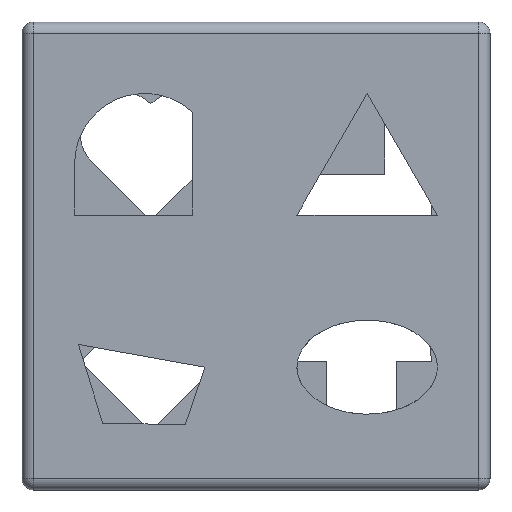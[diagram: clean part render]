
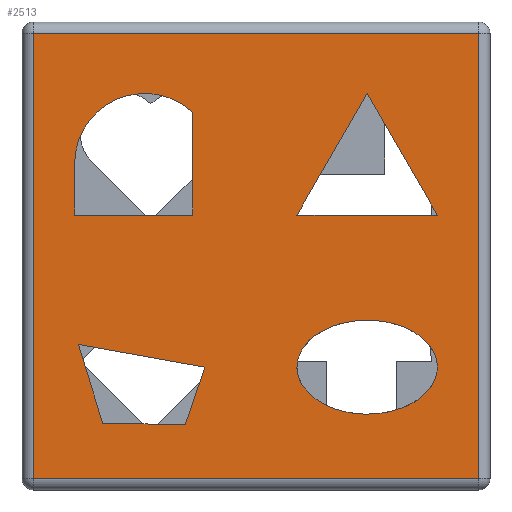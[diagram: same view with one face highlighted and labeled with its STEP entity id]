
A CAD part, front view. The second image highlights one B-rep face of the part: STEP entity #2513.
In plain terms, the highlighted planar face has unit normal (0, -1, 0).
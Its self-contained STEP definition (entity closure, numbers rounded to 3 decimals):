
#17=FACE_BOUND('',#448,.T.);
#18=FACE_BOUND('',#449,.T.);
#19=FACE_BOUND('',#450,.T.);
#20=FACE_BOUND('',#451,.T.);
#75=CIRCLE('',#2635,30.);
#189=PLANE('',#2713);
#317=FACE_OUTER_BOUND('',#447,.T.);
#447=EDGE_LOOP('',(#2068,#2069,#2070,#2071));
#448=EDGE_LOOP('',(#2072));
#449=EDGE_LOOP('',(#2073,#2074,#2075));
#450=EDGE_LOOP('',(#2076,#2077,#2078,#2079));
#451=EDGE_LOOP('',(#2080,#2081,#2082,#2083));
#594=LINE('',#3635,#896);
#598=LINE('',#3643,#900);
#601=LINE('',#3648,#903);
#603=LINE('',#3653,#905);
#607=LINE('',#3661,#909);
#610=LINE('',#3667,#912);
#613=LINE('',#3672,#915);
#615=LINE('',#3677,#917);
#619=LINE('',#3685,#921);
#622=LINE('',#3691,#924);
#695=LINE('',#3878,#997);
#711=LINE('',#3926,#1013);
#714=LINE('',#3930,#1016);
#720=LINE('',#3942,#1022);
#896=VECTOR('',#2922,10.);
#900=VECTOR('',#2928,10.);
#903=VECTOR('',#2933,10.);
#905=VECTOR('',#2937,10.);
#909=VECTOR('',#2943,10.);
#912=VECTOR('',#2948,10.);
#915=VECTOR('',#2953,10.);
#917=VECTOR('',#2957,10.);
#921=VECTOR('',#2963,10.);
#924=VECTOR('',#2968,10.);
#997=VECTOR('',#3141,10.);
#1013=VECTOR('',#3199,10.);
#1016=VECTOR('',#3204,10.);
#1022=VECTOR('',#3218,10.);
#1131=ELLIPSE('',#2622,30.,20.091);
#1189=VERTEX_POINT('',#3627);
#1191=VERTEX_POINT('',#3633);
#1192=VERTEX_POINT('',#3634);
#1195=VERTEX_POINT('',#3642);
#1197=VERTEX_POINT('',#3651);
#1198=VERTEX_POINT('',#3652);
#1201=VERTEX_POINT('',#3660);
#1203=VERTEX_POINT('',#3666);
#1205=VERTEX_POINT('',#3675);
#1206=VERTEX_POINT('',#3676);
#1209=VERTEX_POINT('',#3684);
#1211=VERTEX_POINT('',#3690);
#1263=VERTEX_POINT('',#3846);
#1266=VERTEX_POINT('',#3853);
#1270=VERTEX_POINT('',#3864);
#1273=VERTEX_POINT('',#3871);
#1445=EDGE_CURVE('',#1189,#1189,#1131,.T.);
#1448=EDGE_CURVE('',#1191,#1192,#594,.T.);
#1452=EDGE_CURVE('',#1195,#1191,#598,.T.);
#1455=EDGE_CURVE('',#1192,#1195,#601,.T.);
#1457=EDGE_CURVE('',#1197,#1198,#603,.T.);
#1461=EDGE_CURVE('',#1201,#1197,#607,.T.);
#1464=EDGE_CURVE('',#1203,#1201,#610,.T.);
#1467=EDGE_CURVE('',#1198,#1203,#613,.T.);
#1469=EDGE_CURVE('',#1205,#1206,#615,.T.);
#1473=EDGE_CURVE('',#1209,#1205,#619,.T.);
#1476=EDGE_CURVE('',#1211,#1209,#622,.T.);
#1479=EDGE_CURVE('',#1206,#1211,#75,.T.);
#1568=EDGE_CURVE('',#1273,#1266,#695,.T.);
#1594=EDGE_CURVE('',#1270,#1273,#711,.T.);
#1597=EDGE_CURVE('',#1263,#1270,#714,.T.);
#1604=EDGE_CURVE('',#1266,#1263,#720,.T.);
#2068=ORIENTED_EDGE('',*,*,#1568,.F.);
#2069=ORIENTED_EDGE('',*,*,#1594,.F.);
#2070=ORIENTED_EDGE('',*,*,#1597,.F.);
#2071=ORIENTED_EDGE('',*,*,#1604,.F.);
#2072=ORIENTED_EDGE('',*,*,#1445,.T.);
#2073=ORIENTED_EDGE('',*,*,#1448,.T.);
#2074=ORIENTED_EDGE('',*,*,#1455,.T.);
#2075=ORIENTED_EDGE('',*,*,#1452,.T.);
#2076=ORIENTED_EDGE('',*,*,#1457,.T.);
#2077=ORIENTED_EDGE('',*,*,#1467,.T.);
#2078=ORIENTED_EDGE('',*,*,#1464,.T.);
#2079=ORIENTED_EDGE('',*,*,#1461,.T.);
#2080=ORIENTED_EDGE('',*,*,#1469,.T.);
#2081=ORIENTED_EDGE('',*,*,#1479,.T.);
#2082=ORIENTED_EDGE('',*,*,#1476,.T.);
#2083=ORIENTED_EDGE('',*,*,#1473,.T.);
#2513=ADVANCED_FACE('',(#317,#17,#18,#19,#20),#189,.T.);
#2622=AXIS2_PLACEMENT_3D('',#3628,#2915,#2916);
#2635=AXIS2_PLACEMENT_3D('',#3696,#2973,#2974);
#2713=AXIS2_PLACEMENT_3D('',#3964,#3235,#3236);
#2915=DIRECTION('center_axis',(0.,1.,0.));
#2916=DIRECTION('ref_axis',(1.,0.,0.));
#2922=DIRECTION('',(0.5,0.,-0.866));
#2928=DIRECTION('',(0.5,0.,0.866));
#2933=DIRECTION('',(-1.,0.,0.));
#2937=DIRECTION('',(-0.295,0.,0.956));
#2943=DIRECTION('',(-1.,0.,0.015));
#2948=DIRECTION('',(-0.323,0.,-0.946));
#2953=DIRECTION('',(0.984,0.,-0.177));
#2957=DIRECTION('',(0.,0.,1.));
#2963=DIRECTION('',(-1.,0.,0.));
#2968=DIRECTION('',(0.,0.,-1.));
#2973=DIRECTION('center_axis',(0.,1.,0.));
#2974=DIRECTION('ref_axis',(0.681,0.,0.732));
#3141=DIRECTION('',(-1.,0.,0.));
#3199=DIRECTION('',(0.,0.,-1.));
#3204=DIRECTION('',(1.,0.,0.));
#3218=DIRECTION('',(0.,0.,1.));
#3235=DIRECTION('center_axis',(0.,-1.,0.));
#3236=DIRECTION('ref_axis',(1.,0.,0.));
#3627=CARTESIAN_POINT('',(17.5,-100.,52.5));
#3628=CARTESIAN_POINT('Origin',(47.5,-100.,52.5));
#3633=CARTESIAN_POINT('',(47.5,-100.,169.462));
#3634=CARTESIAN_POINT('',(77.5,-100.,117.5));
#3635=CARTESIAN_POINT('',(65.752,-100.,137.848));
#3642=CARTESIAN_POINT('',(17.5,-100.,117.5));
#3643=CARTESIAN_POINT('',(-22.627,-100.,47.998));
#3648=CARTESIAN_POINT('',(-11.25,-100.,117.5));
#3651=CARTESIAN_POINT('',(-65.499,-100.,28.495));
#3652=CARTESIAN_POINT('',(-75.892,-100.,62.2));
#3653=CARTESIAN_POINT('',(-62.985,-100.,20.342));
#3660=CARTESIAN_POINT('',(-30.232,-100.,27.964));
#3661=CARTESIAN_POINT('',(-64.898,-100.,28.486));
#3666=CARTESIAN_POINT('',(-21.849,-100.,52.5));
#3667=CARTESIAN_POINT('',(-33.964,-100.,17.039));
#3672=CARTESIAN_POINT('',(-82.162,-100.,63.325));
#3675=CARTESIAN_POINT('',(-77.5,-100.,117.5));
#3676=CARTESIAN_POINT('',(-77.5,-100.,139.462));
#3677=CARTESIAN_POINT('',(-77.5,-100.,58.75));
#3684=CARTESIAN_POINT('',(-27.062,-100.,117.5));
#3685=CARTESIAN_POINT('',(-63.531,-100.,117.5));
#3690=CARTESIAN_POINT('',(-27.062,-100.,161.423));
#3691=CARTESIAN_POINT('',(-27.062,-100.,80.712));
#3696=CARTESIAN_POINT('Origin',(-47.5,-100.,139.462));
#3846=CARTESIAN_POINT('',(-95.,-100.,195.));
#3853=CARTESIAN_POINT('',(-95.,-100.,5.));
#3864=CARTESIAN_POINT('',(95.,-100.,195.));
#3871=CARTESIAN_POINT('',(95.,-100.,5.));
#3878=CARTESIAN_POINT('',(-50.,-100.,5.));
#3926=CARTESIAN_POINT('',(95.,-100.,0.));
#3930=CARTESIAN_POINT('',(-50.,-100.,195.));
#3942=CARTESIAN_POINT('',(-95.,-100.,0.));
#3964=CARTESIAN_POINT('Origin',(-100.,-100.,0.));
